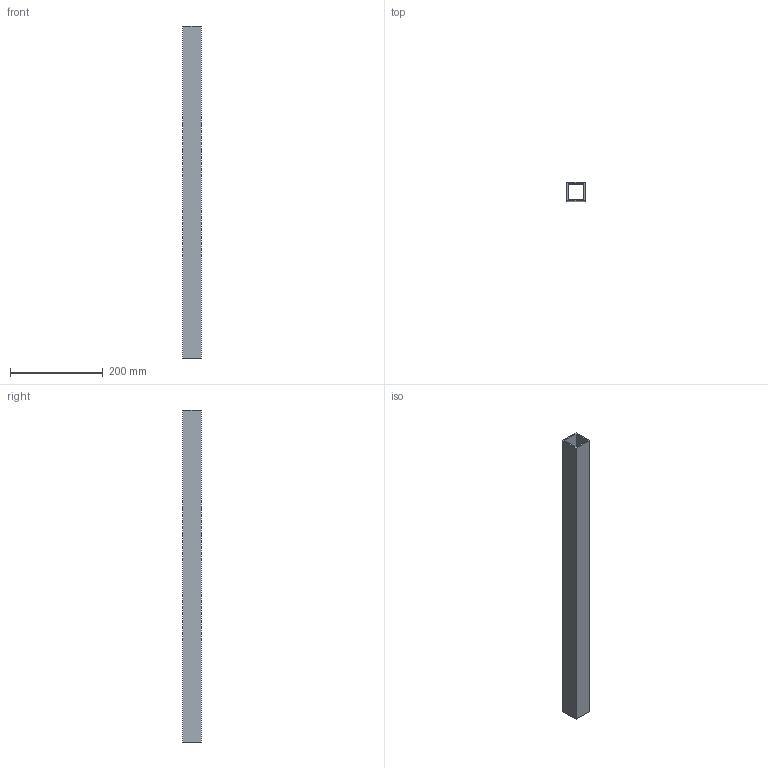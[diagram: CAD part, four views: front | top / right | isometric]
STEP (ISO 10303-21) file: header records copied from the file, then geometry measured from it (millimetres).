
FILE_DESCRIPTION(('Open CASCADE Model'),'2;1');
FILE_NAME('Open CASCADE Shape Model','2026-10-15T15:10:07',('Author'),( 'Open CASCADE'),'Open CASCADE STEP processor 8.0','Open CASCADE 8.0' ,'Unknown');
FILE_SCHEMA(('AUTOMOTIVE_DESIGN { 1 0 10303 214 1 1 1 1 }'));
Length unit declared in the file: millimetre
Products named in the file (1): SHS40x40x3_L800000_P05_JUNTA_11 192
Bounding box: 40 x 40 x 716 mm (x, y, z)
Volume: 317904 mm3; surface area: 212824 mm2
Topology: 1 solids, 1 shells, 10 faces, 24 edges, 16 vertices
Faces by surface type: plane 10
Entity records: 582 total; most frequent: CARTESIAN_POINT 131, DIRECTION 62, ORIENTED_EDGE 48, PCURVE 48, DEFINITIONAL_REPRESENTATION 48, LINE 40, VECTOR 40, B_SPLINE_CURVE_WITH_KNOTS 32
